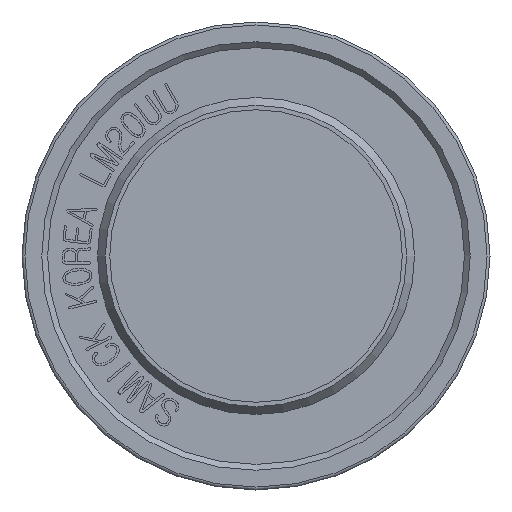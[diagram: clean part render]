
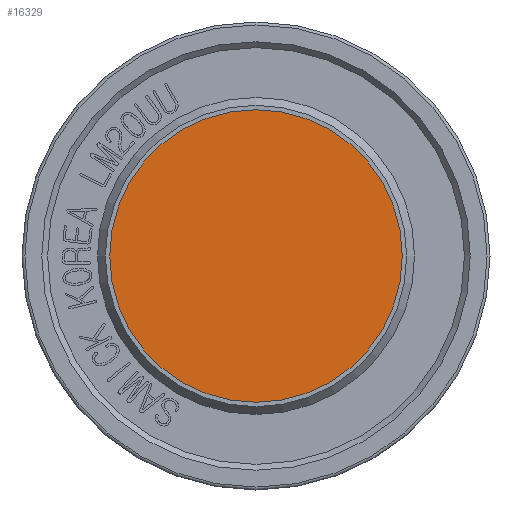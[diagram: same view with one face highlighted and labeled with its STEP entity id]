
A CAD part, front view. The second image highlights one B-rep face of the part: STEP entity #16329.
In plain terms, the highlighted planar face has unit normal (0, -1, 0).
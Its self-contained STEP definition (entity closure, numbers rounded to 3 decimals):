
#41=CIRCLE('',#16602,10.);
#351=PLANE('',#16604);
#1171=FACE_OUTER_BOUND('',#2050,.T.);
#2050=EDGE_LOOP('',(#14010));
#7034=VERTEX_POINT('',#28349);
#9373=EDGE_CURVE('',#7034,#7034,#41,.T.);
#14010=ORIENTED_EDGE('',*,*,#9373,.F.);
#16329=ADVANCED_FACE('',(#1171),#351,.T.);
#16602=AXIS2_PLACEMENT_3D('',#28351,#18231,#18232);
#16604=AXIS2_PLACEMENT_3D('',#28353,#18235,#18236);
#18231=DIRECTION('center_axis',(0.,1.,0.));
#18232=DIRECTION('ref_axis',(1.,0.,0.));
#18235=DIRECTION('center_axis',(0.,-1.,0.));
#18236=DIRECTION('ref_axis',(0.,0.,-1.));
#28349=CARTESIAN_POINT('',(-10.,-47.5,0.));
#28351=CARTESIAN_POINT('Origin',(0.,-47.5,0.));
#28353=CARTESIAN_POINT('Origin',(0.,-47.5,0.));
